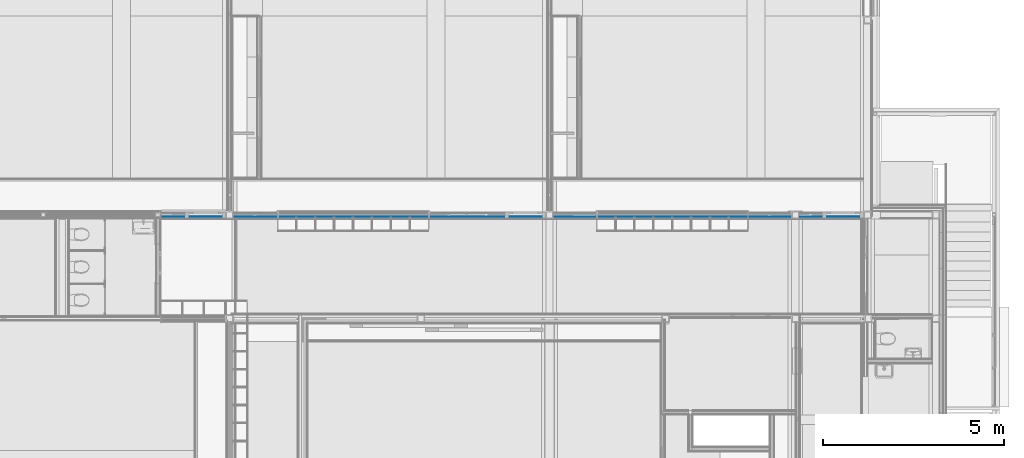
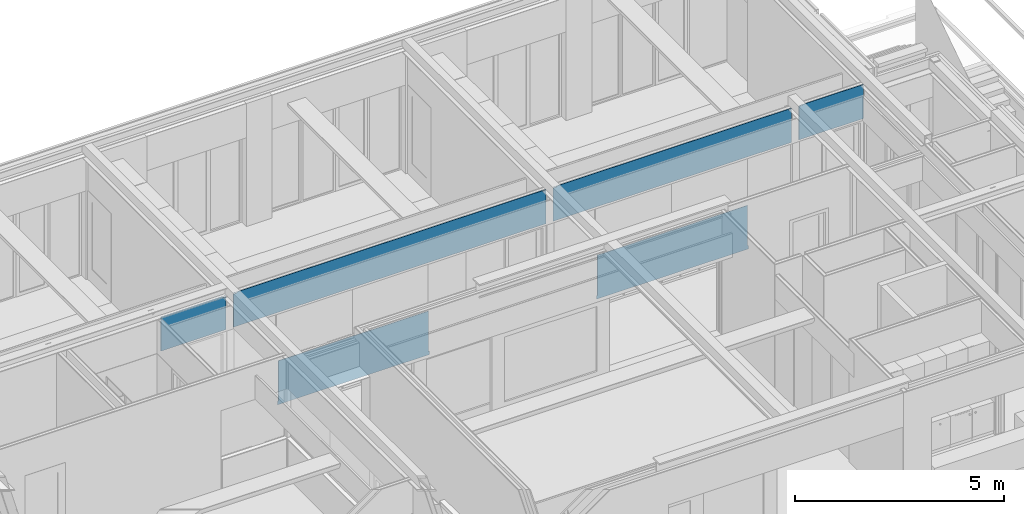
# One storey, part 35 of 165: 1 building element part, 14 openings, 1 element without a shape of its own.
"""IFC2X3 building model written with IfcOpenShell, lengths in millimetres."""

from ifc_helpers import new_model, entity, si_unit, converted_unit, derived_unit, money_unit, direction, frame, origin_with_axes, place, context, subcontext, project, spatial, faceted_brep, material, type_object, element, aggregate, save


model = new_model("IFC2X3")

# Units and contexts
model_context = context("Model", 3, precision=0.01, world=origin_with_axes(), true_north=direction((0.0, 1.0)))
body_context = subcontext(model_context, "Body", "Model", "MODEL_VIEW")
ifc_project = project(units=[si_unit("LENGTHUNIT", "METRE", prefix="MILLI"), si_unit("AREAUNIT", "SQUARE_METRE"), si_unit("VOLUMEUNIT", "CUBIC_METRE"), converted_unit("PLANEANGLEUNIT", "DEGREE", entity("IfcPlaneAngleMeasure", 0.0174532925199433), si_unit("PLANEANGLEUNIT", "RADIAN"), dimensions=[0, 0, 0, 0, 0, 0, 0]), money_unit("EUR"), converted_unit("TIMEUNIT", "Year", entity("IfcTimeMeasure", 31556926.0), si_unit("TIMEUNIT", "SECOND"), dimensions=[0, 0, 1, 0, 0, 0, 0]), si_unit("MASSUNIT", "GRAM", prefix="KILO"), si_unit("THERMODYNAMICTEMPERATUREUNIT", "DEGREE_CELSIUS"), si_unit("LUMINOUSINTENSITYUNIT", "LUMEN"), si_unit("ENERGYUNIT", "JOULE", prefix="MEGA"), derived_unit("THERMALCONDUCTANCEUNIT", [(si_unit("POWERUNIT", "WATT"), 1), (si_unit("LENGTHUNIT", "METRE"), -1), (si_unit("THERMODYNAMICTEMPERATUREUNIT", "KELVIN"), -1)]), derived_unit("SPECIFICHEATCAPACITYUNIT", [(si_unit("ENERGYUNIT", "JOULE"), 1), (si_unit("MASSUNIT", "GRAM", prefix="KILO"), -1), (si_unit("THERMODYNAMICTEMPERATUREUNIT", "KELVIN"), -1)]), derived_unit("MASSDENSITYUNIT", [(si_unit("MASSUNIT", "GRAM", prefix="KILO"), 1), (si_unit("VOLUMEUNIT", "CUBIC_METRE"), -1)])], contexts=[model_context])

# Site, building, storey
site_placement = place(None, origin_with_axes())
site = spatial("IfcSite", under=ifc_project, at=site_placement, Name="Site", CompositionType="ELEMENT")
building_placement = place(site_placement, origin_with_axes())
building = spatial("IfcBuilding", under=site, at=building_placement, Name="Naam gebouw", CompositionType="ELEMENT")
storey_placement = place(building_placement, origin_with_axes())
storey = spatial("IfcBuildingStorey", under=building, at=storey_placement, Name="Begane grond", CompositionType="ELEMENT", Elevation=0.0)

# Proxy, openings, building element part
building_element_proxy_type = type_object("IfcBuildingElementProxyType", Name="22 Metal stud 125 gips 125", PredefinedType="NOTDEFINED")
proxy_placement = place(storey_placement, frame((6940.0, 22324.99474661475, -100.0), z_axis=(0.0, 0.0, 1.0), x_axis=(0.9999999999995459, -9.530261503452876e-07, 0.0)))
proxy = element("IfcBuildingElementProxy", 1, at=proxy_placement, inside=storey, type_object=building_element_proxy_type, Name="_Wand-x")
opening_1_placement = place(proxy_placement, frame((11459.99904000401, 0.0, 100.0), z_axis=(0.0, 0.0, 1.0), x_axis=(1.0, 0.0, 0.0)))
element("IfcOpeningElement", 2, at=opening_1_placement, cuts=proxy, Name="_B.01", context=body_context, shape_type="Brep", body=[
    faceted_brep([(600.0000000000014, -12.50000000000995, -100.0000000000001), (600.0000000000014, -12.50000000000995, 2600.0), (600.0000000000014, -63.51853254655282, 2600.0), (600.0000000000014, -63.51853254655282, -100.0000000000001), (600.0000000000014, 63.51853254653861, -100.0000000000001), (600.0000000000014, 63.51853254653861, 2600.0), (-599.9999999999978, -12.50000000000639, 2600.0), (-599.9999999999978, -63.51853254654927, 2600.0), (-600.0000000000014, 63.51853254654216, 2600.0), (-599.9999999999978, -63.51853254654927, -100.0000000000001), (-599.9999999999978, -12.50000000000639, -100.0000000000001), (-600.0000000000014, 63.51853254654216, -100.0000000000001)], [[[0, 1, 2, 3]], [[1, 0, 4, 5]], [[6, 7, 2, 1, 5, 8]], [[7, 9, 3, 2]], [[0, 3, 9, 10, 11, 4]], [[5, 4, 11, 8]], [[6, 10, 9, 7]], [[10, 6, 8, 11]]]),
])
opening_2_placement = place(proxy_placement, frame((7954.999824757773, 0.0, 100.0), z_axis=(0.0, 0.0, 1.0), x_axis=(1.0, 0.0, 0.0)))
element("IfcOpeningElement", 3, at=opening_2_placement, cuts=proxy, Name="_B.06", context=body_context, shape_type="Brep", body=[
    faceted_brep([(524.9998247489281, -12.50000000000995, -100.0000000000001), (524.9998247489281, -12.50000000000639, 2600.0), (524.9998247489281, -63.51853254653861, 2600.0), (524.9998247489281, -63.51853254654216, -100.0000000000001), (524.9998247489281, 63.5185325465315, -100.0000000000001), (524.9998247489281, 63.51853254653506, 2600.0), (-524.9998247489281, -12.50000000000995, 2600.0), (-524.9998247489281, -63.51853254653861, 2600.0), (-524.9998247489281, 63.51853254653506, 2600.0), (-524.9998247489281, -63.51853254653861, -100.0000000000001), (-524.9998247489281, -12.50000000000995, -100.0000000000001), (-524.9998247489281, 63.51853254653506, -100.0000000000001)], [[[0, 1, 2, 3]], [[1, 0, 4, 5]], [[6, 7, 2, 1, 5, 8]], [[7, 9, 3, 2]], [[0, 3, 9, 10, 11, 4]], [[5, 4, 11, 8]], [[6, 10, 9, 7]], [[10, 6, 8, 11]]]),
])
opening_3_placement = place(proxy_placement, frame((16859.99904000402, 0.0, 100.0), z_axis=(0.0, 0.0, 1.0), x_axis=(1.0, 0.0, 0.0)))
element("IfcOpeningElement", 4, at=opening_3_placement, cuts=proxy, Name="_B.01", context=body_context, shape_type="Brep", body=[
    faceted_brep([(599.9999999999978, -12.50000000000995, -100.0000000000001), (599.9999999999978, -12.50000000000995, 2600.0), (599.9999999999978, -63.51853254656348, 2600.0), (599.9999999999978, -63.51853254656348, -100.0000000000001), (599.9999999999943, 63.5185325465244, -100.0000000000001), (599.9999999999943, 63.5185325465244, 2600.0), (-600.0000000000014, -12.50000000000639, 2600.0), (-600.0000000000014, -63.51853254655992, 2600.0), (-600.0000000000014, 63.51853254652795, 2600.0), (-600.0000000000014, -63.51853254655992, -100.0000000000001), (-600.0000000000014, -12.50000000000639, -100.0000000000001), (-600.0000000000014, 63.51853254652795, -100.0000000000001)], [[[0, 1, 2, 3]], [[1, 0, 4, 5]], [[6, 7, 2, 1, 5, 8]], [[7, 9, 3, 2]], [[0, 3, 9, 10, 11, 4]], [[5, 4, 11, 8]], [[6, 10, 9, 7]], [[10, 6, 8, 11]]]),
])
opening_4_placement = place(proxy_placement, frame((13109.999040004, 0.0, 1300.0), z_axis=(0.0, 0.0, 1.0), x_axis=(1.0, 0.0, 0.0)))
element("IfcOpeningElement", 5, at=opening_4_placement, cuts=proxy, Name="_C.01", context=body_context, shape_type="Brep", body=[
    faceted_brep([(1049.999999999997, -12.50000000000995, 0.0), (1049.999999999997, -12.50000000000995, 1400.0), (1049.999999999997, -63.51853254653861, 1400.0), (1049.999999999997, -63.51853254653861, 0.0), (1049.999999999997, 63.51853254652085, 0.0), (1049.999999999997, 63.51853254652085, 1400.0), (-1049.99999999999, -12.50000000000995, 1400.0), (-1049.999999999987, -63.51853254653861, 1400.0), (-1049.99999999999, 63.5185325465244, 1400.0), (-1049.999999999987, -63.51853254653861, 0.0), (-1049.99999999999, -12.50000000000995, 0.0), (-1049.99999999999, 63.5185325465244, 0.0)], [[[0, 1, 2, 3]], [[1, 0, 4, 5]], [[6, 7, 2, 1, 5, 8]], [[7, 9, 3, 2]], [[0, 3, 9, 10, 11, 4]], [[5, 4, 11, 8]], [[6, 10, 9, 7]], [[10, 6, 8, 11]]]),
])
opening_5_placement = place(proxy_placement, frame((15209.99904000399, 0.0, 1300.000000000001), z_axis=(0.0, 0.0, 1.0), x_axis=(1.0, 0.0, 0.0)))
element("IfcOpeningElement", 6, at=opening_5_placement, cuts=proxy, Name="_C.01", context=body_context, shape_type="Brep", body=[
    faceted_brep([(1050.000000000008, -12.5000000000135, 0.0), (1050.000000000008, -12.5000000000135, 1400.0), (1050.000000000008, -63.51853254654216, 1400.0), (1050.000000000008, -63.51853254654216, 0.0), (1050.000000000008, 63.51853254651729, 0.0), (1050.000000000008, 63.51853254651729, 1400.0), (-1050.000000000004, -12.50000000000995, 1400.0), (-1050.000000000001, -63.51853254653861, 1400.0), (-1050.000000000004, 63.51853254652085, 1400.0), (-1050.000000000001, -63.51853254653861, 0.0), (-1050.000000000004, -12.50000000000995, 0.0), (-1050.000000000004, 63.51853254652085, 0.0)], [[[0, 1, 2, 3]], [[1, 0, 4, 5]], [[6, 7, 2, 1, 5, 8]], [[7, 9, 3, 2]], [[0, 3, 9, 10, 11, 4]], [[5, 4, 11, 8]], [[6, 10, 9, 7]], [[10, 6, 8, 11]]]),
])
opening_6_placement = place(proxy_placement, frame((2620.000000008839, 0.0, 100.0), z_axis=(0.0, 0.0, 1.0), x_axis=(1.0, 0.0, 0.0)))
element("IfcOpeningElement", 7, at=opening_6_placement, cuts=proxy, Name="_B.03", context=body_context, shape_type="Brep", body=[
    faceted_brep([(610.0000000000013, -12.50000000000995, -100.0000000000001), (610.0000000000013, -12.50000000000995, 2600.0), (610.0000000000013, -63.51853254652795, 2600.0), (610.0000000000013, -63.51853254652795, -100.0000000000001), (610.0000000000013, 63.51853254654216, -100.0000000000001), (610.0000000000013, 63.51853254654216, 2600.0), (-610.0000000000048, -12.50000000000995, 2600.0), (-610.0000000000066, -63.51853254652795, 2600.0), (-610.0000000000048, 63.51853254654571, 2600.0), (-610.0000000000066, -63.51853254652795, -100.0000000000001), (-610.0000000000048, -12.50000000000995, -100.0000000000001), (-610.0000000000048, 63.51853254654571, -100.0000000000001)], [[[0, 1, 2, 3]], [[1, 0, 4, 5]], [[6, 7, 2, 1, 5, 8]], [[7, 9, 3, 2]], [[0, 3, 9, 10, 11, 4]], [[5, 4, 11, 8]], [[6, 10, 9, 7]], [[10, 6, 8, 11]]]),
])
opening_7_placement = place(proxy_placement, frame((4280.000000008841, 0.0, 1300.0), z_axis=(0.0, 0.0, 1.0), x_axis=(1.0, 0.0, 0.0)))
element("IfcOpeningElement", 8, at=opening_7_placement, cuts=proxy, Name="_C.01", context=body_context, shape_type="Brep", body=[
    faceted_brep([(1049.999999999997, -12.50000000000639, 0.0), (1049.999999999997, -12.50000000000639, 1400.0), (1049.999999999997, -63.5185325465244, 1400.0), (1049.999999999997, -63.5185325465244, 0.0), (1049.999999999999, 63.51853254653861, 0.0), (1049.999999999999, 63.51853254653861, 1400.0), (-1049.999999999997, -12.50000000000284, 1400.0), (-1049.999999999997, -63.51853254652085, 1400.0), (-1049.999999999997, 63.51853254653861, 1400.0), (-1049.999999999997, -63.51853254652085, 0.0), (-1049.999999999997, -12.50000000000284, 0.0), (-1049.999999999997, 63.51853254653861, 0.0)], [[[0, 1, 2, 3]], [[1, 0, 4, 5]], [[6, 7, 2, 1, 5, 8]], [[7, 9, 3, 2]], [[0, 3, 9, 10, 11, 4]], [[5, 4, 11, 8]], [[6, 10, 9, 7]], [[10, 6, 8, 11]]]),
])
opening_8_placement = place(proxy_placement, frame((9004.999474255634, 0.0, 100.0), z_axis=(0.0, 0.0, 1.0), x_axis=(1.0, 0.0, 0.0)))
element("IfcOpeningElement", 9, at=opening_8_placement, cuts=proxy, Name="_B.06", context=body_context, shape_type="Brep", body=[
    faceted_brep([(524.9998247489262, -12.50000000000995, -100.0000000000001), (524.9998247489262, -12.50000000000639, 2600.0), (524.9998247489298, -63.51853254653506, 2600.0), (524.9998247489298, -63.51853254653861, -100.0000000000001), (524.9998247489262, 63.51853254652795, -100.0000000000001), (524.9998247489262, 63.5185325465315, 2600.0), (-524.9998247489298, -12.50000000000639, 2600.0), (-524.9998247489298, -63.51853254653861, 2600.0), (-524.9998247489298, 63.5185325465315, 2600.0), (-524.9998247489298, -63.51853254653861, -100.0000000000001), (-524.9998247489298, -12.50000000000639, -100.0000000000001), (-524.9998247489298, 63.5185325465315, -100.0000000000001)], [[[0, 1, 2, 3]], [[1, 0, 4, 5]], [[6, 7, 2, 1, 5, 8]], [[7, 9, 3, 2]], [[0, 3, 9, 10, 11, 4]], [[5, 4, 11, 8]], [[6, 10, 9, 7]], [[10, 6, 8, 11]]]),
])
opening_9_placement = place(proxy_placement, frame((17987.99955956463, 0.0, 100.0), z_axis=(0.0, 0.0, 1.0), x_axis=(1.0, 0.0, 0.0)))
element("IfcOpeningElement", 10, at=opening_9_placement, cuts=proxy, Name="_B.09", context=body_context, shape_type="Brep", body=[
    faceted_brep([(-328.0004950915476, 12.49999999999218, -100.0000000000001), (-328.0004950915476, 12.49999999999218, 2600.0), (-328.0004950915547, 63.51853254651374, 2600.0), (-328.0004950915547, 63.51853254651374, -100.0000000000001), (-328.0004950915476, -63.51853254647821, -100.0000000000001), (-328.0004950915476, -63.51853254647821, 2600.0), (328.0004950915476, 12.49999999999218, 2600.0), (328.0004950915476, 63.51853254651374, 2600.0), (328.0004950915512, -63.51853254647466, 2600.0), (328.0004950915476, 63.51853254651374, -100.0000000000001), (328.0004950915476, 12.49999999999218, -100.0000000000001), (328.0004950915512, -63.51853254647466, -100.0000000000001)], [[[0, 1, 2, 3]], [[1, 0, 4, 5]], [[6, 7, 2, 1, 5, 8]], [[7, 9, 3, 2]], [[0, 3, 9, 10, 11, 4]], [[5, 4, 11, 8]], [[6, 10, 9, 7]], [[10, 6, 8, 11]]]),
])
opening_10_placement = place(proxy_placement, frame((18881.00000000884, 0.0, 100.0), z_axis=(0.0, 0.0, 1.0), x_axis=(1.0, 0.0, 0.0)))
element("IfcOpeningElement", 11, at=opening_10_placement, cuts=proxy, Name="_01.01", context=body_context, shape_type="Brep", body=[
    faceted_brep([(-564.9999999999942, -63.51853254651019, 2600.0), (-564.9999999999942, -63.51853254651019, -100.0000000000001), (565.0000000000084, -63.51853254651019, -100.0000000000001), (565.0000000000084, -63.51853254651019, 2600.0), (-564.9999999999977, 63.51853254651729, 2600.0), (-564.9999999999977, 63.51853254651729, -100.0000000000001), (565.0000000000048, 63.51853254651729, -100.0000000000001), (565.0000000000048, 63.51853254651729, 2600.0)], [[[0, 1, 2, 3]], [[4, 5, 1, 0]], [[5, 6, 2, 1]], [[6, 7, 3, 2]], [[7, 4, 0, 3]], [[6, 5, 4, 7]]]),
])
opening_11_placement = place(proxy_placement, frame((10094.99953887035, 0.0, 100.0), z_axis=(0.0, 0.0, 1.0), x_axis=(1.0, 0.0, 0.0)))
element("IfcOpeningElement", 12, at=opening_11_placement, cuts=proxy, Name="_01.01", context=body_context, shape_type="Brep", body=[
    faceted_brep([(-564.9999999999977, -63.51853254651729, 2600.0), (-564.9999999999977, -63.51853254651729, -100.0000000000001), (565.0000000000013, -63.51853254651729, -100.0000000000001), (565.0000000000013, -63.51853254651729, 2600.0), (-565.0000000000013, 63.51853254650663, 2600.0), (-565.0000000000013, 63.51853254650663, -100.0000000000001), (565.0000000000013, 63.51853254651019, -100.0000000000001), (565.0000000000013, 63.51853254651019, 2600.0)], [[[0, 1, 2, 3]], [[4, 5, 1, 0]], [[5, 6, 2, 1]], [[6, 7, 3, 2]], [[7, 4, 0, 3]], [[6, 5, 4, 7]]]),
])
opening_12_placement = place(proxy_placement, frame((6380.000000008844, 0.0, 1300.0), z_axis=(0.0, 0.0, 1.0), x_axis=(1.0, 0.0, 0.0)))
element("IfcOpeningElement", 13, at=opening_12_placement, cuts=proxy, Name="_C.01", context=body_context, shape_type="Brep", body=[
    faceted_brep([(1050.000000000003, -12.50000000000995, 0.0), (1050.000000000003, -12.50000000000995, 1400.0), (1050.000000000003, -63.51853254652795, 1400.0), (1050.000000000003, -63.51853254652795, 0.0), (1050.000000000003, 63.51853254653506, 0.0), (1050.000000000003, 63.51853254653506, 1400.0), (-1050.000000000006, -12.50000000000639, 1400.0), (-1050.000000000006, -63.5185325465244, 1400.0), (-1050.000000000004, 63.51853254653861, 1400.0), (-1050.000000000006, -63.5185325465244, 0.0), (-1050.000000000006, -12.50000000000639, 0.0), (-1050.000000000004, 63.51853254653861, 0.0)], [[[0, 1, 2, 3]], [[1, 0, 4, 5]], [[6, 7, 2, 1, 5, 8]], [[7, 9, 3, 2]], [[0, 3, 9, 10, 11, 4]], [[5, 4, 11, 8]], [[6, 10, 9, 7]], [[10, 6, 8, 11]]]),
])
opening_13_placement = place(proxy_placement, frame((1245.000071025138, 0.0, 100.0), z_axis=(0.0, 0.0, 1.0), x_axis=(1.0, 0.0, 0.0)))
element("IfcOpeningElement", 14, at=opening_13_placement, cuts=proxy, Name="_01.01", context=body_context, shape_type="Brep", body=[
    faceted_brep([(-565.0000000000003, -63.51853254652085, 2600.0), (-565.0000000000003, -63.51853254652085, -100.0000000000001), (564.9999999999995, -63.51853254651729, -100.0000000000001), (564.9999999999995, -63.51853254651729, 2600.0), (-565.0000000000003, 63.51853254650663, 2600.0), (-565.0000000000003, 63.51853254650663, -100.0000000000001), (564.9999999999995, 63.51853254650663, -100.0000000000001), (564.9999999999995, 63.51853254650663, 2600.0)], [[[0, 1, 2, 3]], [[4, 5, 1, 0]], [[5, 6, 2, 1]], [[6, 7, 3, 2]], [[7, 4, 0, 3]], [[6, 5, 4, 7]]]),
])
opening_14_placement = place(proxy_placement, frame((340.0001105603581, 0.0, 100.0), z_axis=(0.0, 0.0, 1.0), x_axis=(1.0, 0.0, 0.0)))
element("IfcOpeningElement", 15, at=opening_14_placement, cuts=proxy, Name="_B.07", context=body_context, shape_type="Brep", body=[
    faceted_brep([(-339.9999604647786, 12.49999999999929, -100.0000000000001), (-339.9999604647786, 12.49999999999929, 2600.0), (-339.9999604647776, 63.51853254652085, 2600.0), (-339.9999604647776, 63.51853254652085, -100.0000000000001), (-339.9999604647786, -63.51853254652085, -100.0000000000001), (-339.9999604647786, -63.51853254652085, 2600.0), (339.9999604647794, 12.49999999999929, 2600.0), (339.9999604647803, 63.51853254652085, 2600.0), (339.9999604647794, -63.5185325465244, 2600.0), (339.9999604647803, 63.51853254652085, -100.0000000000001), (339.9999604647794, 12.49999999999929, -100.0000000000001), (339.9999604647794, -63.5185325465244, -100.0000000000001)], [[[0, 1, 2, 3]], [[1, 0, 4, 5]], [[6, 7, 2, 1, 5, 8]], [[7, 9, 3, 2]], [[0, 3, 9, 10, 11, 4]], [[5, 4, 11, 8]], [[6, 10, 9, 7]], [[10, 6, 8, 11]]]),
])
ifc_material = material(Name="Gipsplaat")
building_element_part_placement = place(proxy_placement, origin_with_axes())
building_element_part = element("IfcBuildingElementPart", 16, at=building_element_part_placement, material=ifc_material, Name="Gipsplaat", context=body_context, shape_type="Brep", body=[
    faceted_brep([(7410.000047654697, -49.99999999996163, 1280.000000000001), (7410.000047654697, -50.00000000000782, 100.0), (7430.000047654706, -49.99999999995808, 100.0), (7430.000000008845, -50.00000000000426, 0.0), (3230.00000000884, -50.00000000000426, 0.0), (3229.999833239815, -49.99999999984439, 100.0), (3249.999833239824, -50.00000000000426, 100.0), (3249.99983324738, -50.00000000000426, 1280.000000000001), (7410.000059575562, -62.50843428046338, 1280.000000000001), (7410.000059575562, -62.50843428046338, 100.0), (7430.000059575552, -62.50841521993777, 100.0), (7430.000000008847, -62.50000000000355, 0.0), (3230.00000000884, -62.50000000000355, 0.0), (3229.999821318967, -62.50841521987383, 100.0), (3249.999821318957, -62.50843428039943, 100.0), (3249.999821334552, -62.50000000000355, 1280.000000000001)], [[[0, 1, 2, 3, 4, 5, 6, 7]], [[1, 0, 8, 9]], [[10, 2, 1, 9]], [[2, 10, 11, 3]], [[3, 11, 12, 4]], [[4, 12, 13, 5]], [[13, 14, 6, 5]], [[14, 15, 7, 6]], [[8, 0, 7, 15]], [[9, 8, 15, 14, 13, 12, 11, 10]]]),
    faceted_brep([(12059.99893278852, -49.99999999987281, 100.0), (12079.99893278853, -49.99999999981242, 100.0), (12079.99893279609, -49.99999999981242, 1280.000000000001), (16239.99914721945, -50.00000000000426, 1280.000000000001), (16239.99914721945, -50.00000000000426, 100.0), (16259.99914721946, -49.99999999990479, 100.0), (16259.99904000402, -50.00000000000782, 0.0), (12059.99904000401, -50.00000000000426, 0.0), (12059.9989208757, -62.49999999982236, 100.0), (12079.99892087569, -62.50001906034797, 100.0), (12079.99892087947, -62.50398364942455, 1280.000000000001), (16239.99915913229, -62.50001906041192, 1280.000000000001), (16239.99915913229, -62.50001906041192, 100.0), (16259.99915913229, -62.49999999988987, 100.0), (16259.99904000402, -62.50000000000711, 0.0), (12059.99904000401, -62.50000000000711, 0.0)], [[[0, 1, 2, 3, 4, 5, 6, 7]], [[1, 0, 8, 9]], [[10, 2, 1, 9]], [[2, 10, 11, 3]], [[4, 3, 11, 12]], [[4, 12, 13, 5]], [[14, 6, 5, 13]], [[6, 14, 15, 7]], [[8, 0, 7, 15]], [[9, 8, 15, 14, 13, 12, 11, 10]]]),
    faceted_brep([(10659.99948413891, -62.50000000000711, 3675.000002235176), (10659.99953887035, -62.50000000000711, 2700.0), (10659.99953887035, -50.00000000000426, 2700.0), (10659.99947222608, -50.00000000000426, 3675.000002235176), (2010.000000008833, -62.5, 2700.0), (10559.99948413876, -62.50000000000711, 3675.000002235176), (10559.99948413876, -62.50000000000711, 3695.000002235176), (10656.99948413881, -62.50000000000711, 3695.000002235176), (10656.99948413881, -62.50000000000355, 3700.0), (2013.000059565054, -62.5, 3700.0), (2013.000059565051, -62.50000000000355, 3695.000002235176), (2110.000059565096, -62.50000000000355, 3695.000002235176), (2110.000059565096, -62.50000000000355, 3670.000002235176), (2010.00005956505, -62.5, 3670.000002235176), (2010.000000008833, -50.00000000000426, 2700.0), (2010.000047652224, -50.00000000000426, 3670.000002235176), (2110.00004765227, -50.00000000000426, 3670.000002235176), (2110.00004765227, -50.00000000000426, 3695.000002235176), (2013.000047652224, -50.00000000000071, 3695.000002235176), (2013.000047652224, -50.00000000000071, 3700.0), (10656.99947222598, -50.00000000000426, 3700.0), (10656.99947222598, -50.00000000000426, 3695.000002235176), (10559.99947222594, -50.00000000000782, 3695.000002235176), (10559.99947222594, -50.00000000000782, 3675.000002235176)], [[[0, 1, 2, 3]], [[4, 1, 0, 5, 6, 7, 8, 9, 10, 11, 12, 13]], [[14, 2, 1, 4]], [[3, 2, 14, 15, 16, 17, 18, 19, 20, 21, 22, 23]], [[3, 23, 5, 0]], [[23, 22, 6, 5]], [[22, 21, 7, 6]], [[21, 20, 8, 7]], [[8, 20, 19, 9]], [[9, 19, 18, 10]], [[18, 17, 11, 10]], [[17, 16, 12, 11]], [[13, 12, 16, 15]], [[15, 14, 4, 13]]]),
    faceted_brep([(17459.99904000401, -62.50000000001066, 2700.0), (10859.99904000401, -62.50000000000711, 2700.0), (10859.99904000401, -50.00000000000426, 2700.0), (17459.99904000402, -50.00000000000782, 2700.0), (17459.99909956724, -62.50000000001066, 3680.000029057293), (17359.9990995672, -62.50000000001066, 3680.000029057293), (17359.9990995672, -62.50000000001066, 3695.000029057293), (17458.99909956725, -62.50000000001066, 3695.000029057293), (17458.99909956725, -62.50000000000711, 3700.0), (10862.9994841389, -62.50000000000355, 3700.0), (10862.9994841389, -62.50000000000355, 3695.000002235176), (10959.99948413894, -62.50000000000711, 3695.000002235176), (10959.99948413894, -62.50000000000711, 3675.000002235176), (10859.999484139, -62.50000000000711, 3675.000002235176), (10859.99947222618, -50.00000000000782, 3675.000002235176), (10959.99947222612, -50.00000000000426, 3675.000002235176), (10959.99947222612, -50.00000000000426, 3695.000002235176), (10862.99947222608, -50.00000000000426, 3695.000002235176), (10862.99947222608, -50.00000000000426, 3700.0), (17458.99908765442, -50.00000000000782, 3700.0), (17458.99908765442, -50.00000000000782, 3695.000029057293), (17359.99908765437, -50.00000000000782, 3695.000029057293), (17359.99908765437, -50.00000000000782, 3680.000029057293), (17459.99908765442, -50.00000000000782, 3680.000029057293)], [[[0, 1, 2, 3]], [[1, 0, 4, 5, 6, 7, 8, 9, 10, 11, 12, 13]], [[1, 13, 14, 2]], [[3, 2, 14, 15, 16, 17, 18, 19, 20, 21, 22, 23]], [[23, 4, 0, 3]], [[5, 4, 23, 22]], [[6, 5, 22, 21]], [[7, 6, 21, 20]], [[8, 7, 20, 19]], [[8, 19, 18, 9]], [[17, 10, 9, 18]], [[11, 10, 17, 16]], [[12, 11, 16, 15]], [[15, 14, 13, 12]]]),
    faceted_brep([(1810.000071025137, -62.50000000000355, 2700.0), (1810.000071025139, -50.00000000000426, 2700.0), (1810.000047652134, -50.00000000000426, 3670.000002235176), (1810.000059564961, -62.50000000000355, 3670.000002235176), (680.0000710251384, -50.00000000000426, 2700.0), (680.0000710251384, -62.50000000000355, 2700.0), (0.000150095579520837, -62.5, 2700.0), (0.000150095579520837, -50.00000000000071, 2700.0), (0.0, -50.00000000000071, 3700.0), (1807.000047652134, -50.00000000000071, 3700.0), (1807.000047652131, -50.00000000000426, 3695.000002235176), (1710.000047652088, -50.00000000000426, 3695.000002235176), (1710.000047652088, -50.00000000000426, 3670.000002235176), (1710.000059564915, -62.5, 3670.000002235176), (1710.000059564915, -62.5, 3695.000002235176), (1807.000059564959, -62.50000000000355, 3695.000002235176), (1807.000059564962, -62.5, 3700.0), (0.0, -62.5, 3700.0)], [[[0, 1, 2, 3]], [[4, 1, 0, 5, 6, 7]], [[1, 4, 7, 8, 9, 10, 11, 12, 2]], [[12, 13, 3, 2]], [[5, 0, 3, 13, 14, 15, 16, 17, 6]], [[6, 17, 8, 7]], [[9, 8, 17, 16]], [[9, 16, 15, 10]], [[10, 15, 14, 11]], [[11, 14, 13, 12]]]),
    faceted_brep([(19446.00000000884, -62.50000000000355, 2700.0), (19446.00000000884, -50.00000000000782, 2700.0), (19446.00000000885, -50.00000000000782, 3393.0), (19446.00000000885, -62.50000000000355, 3393.0), (18316.00000000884, -50.00000000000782, 2700.0), (18316.00000000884, -62.50000000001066, 2700.0), (17659.99906447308, -62.50000000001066, 2700.0), (17659.99906447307, -50.00000000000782, 2700.0), (17659.99908765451, -50.00000000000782, 3680.000029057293), (17759.99908765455, -50.00000000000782, 3680.000029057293), (17759.99908765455, -50.00000000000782, 3695.000029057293), (17660.99908765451, -50.00000000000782, 3695.000029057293), (17660.99908765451, -50.00000000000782, 3700.0), (19446.00000000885, -50.00000000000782, 3700.0), (19446.00000000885, -50.00000000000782, 3695.0), (19361.00004318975, -50.00000000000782, 3695.0), (19361.00004318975, -50.00000000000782, 3683.0), (19446.00000000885, -50.00000000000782, 3683.0), (19446.00000000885, -50.00000000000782, 3405.0), (19444.00004766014, -50.00000000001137, 3405.0), (19444.00004766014, -50.00000000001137, 3393.0), (19444.00005957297, -62.50000000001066, 3393.0), (19444.00005957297, -62.50000000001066, 3405.0), (19446.00000000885, -62.50000000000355, 3405.0), (19446.00000000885, -62.50000000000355, 3683.0), (19361.00005510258, -62.50000000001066, 3683.0), (19361.00005510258, -62.50000000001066, 3695.0), (19446.00000000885, -62.50000000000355, 3695.0), (19446.00000000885, -62.50000000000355, 3700.0), (17660.99909956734, -62.50000000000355, 3700.0), (17660.99909956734, -62.50000000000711, 3695.000029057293), (17759.99909956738, -62.50000000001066, 3695.000029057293), (17759.99909956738, -62.50000000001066, 3680.000029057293), (17659.99909956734, -62.50000000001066, 3680.000029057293)], [[[0, 1, 2, 3]], [[4, 1, 0, 5, 6, 7]], [[1, 4, 7, 8, 9, 10, 11, 12, 13, 14, 15, 16, 17, 18, 19, 20, 2]], [[2, 20, 21, 3]], [[5, 0, 3, 21, 22, 23, 24, 25, 26, 27, 28, 29, 30, 31, 32, 33, 6]], [[6, 33, 8, 7]], [[32, 9, 8, 33]], [[9, 32, 31, 10]], [[10, 31, 30, 11]], [[12, 11, 30, 29]], [[29, 28, 13, 12]], [[14, 13, 28, 27]], [[14, 27, 26, 15]], [[15, 26, 25, 16]], [[17, 16, 25, 24]], [[24, 23, 18, 17]], [[18, 23, 22, 19]], [[19, 22, 21, 20]]]),
])
aggregate(proxy, [building_element_part])

save(model, "model.ifc")
